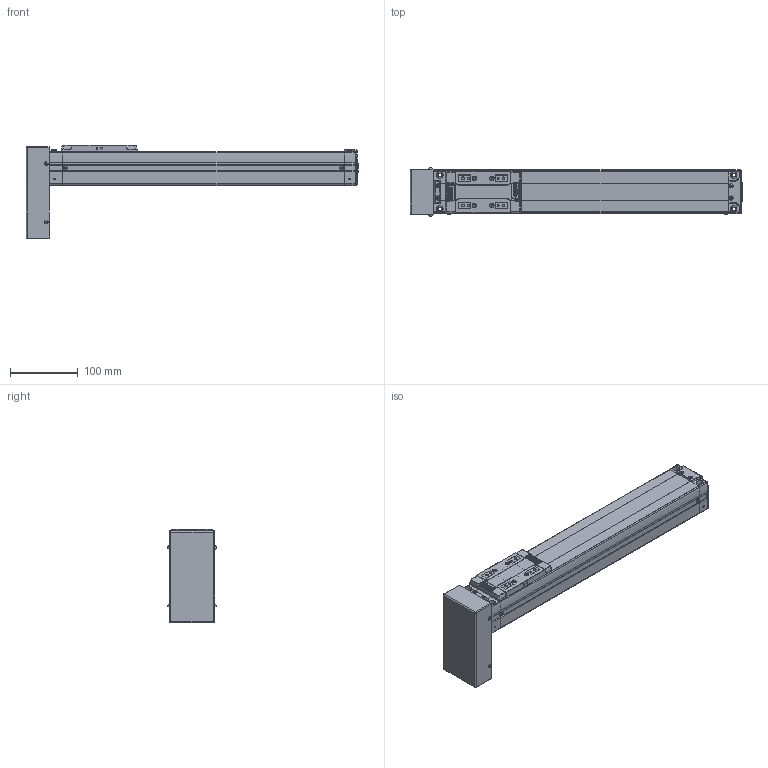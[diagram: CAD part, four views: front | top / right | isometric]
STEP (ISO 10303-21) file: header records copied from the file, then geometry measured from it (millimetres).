
FILE_DESCRIPTION(('STEP AP214'),'1');
FILE_NAME('Z:/Web/3D/SAN65/STP/SAN65ㅁㅁ-300PB.stp','2012-06-14T05:07:32',(' '),(' '),'Spatial InterOp 3D',' ',' ');
FILE_SCHEMA(('automotive_design'));
Length unit declared in the file: metre
Products named in the file (34): SAN65__-300; BODY-SAN65; REAR-SAN65; RRCV-SAN65; 스크루 : Round - M3.0 x 6.0; FRONT-SAN65; SHAFT-SAN65; RN8 x 0.75; SSFX-SAN65; SLIDE-SAN65; SLCV-SAN65; 스크루 : Countersunk - M3.0 x 6.0; ____198; PB; BTCV-SAN65; M3.0 x 6.0
Assembly tree (33 placements, depth 4):
  ____198
    SAN65__-300
      BODY-SAN65
      REAR-SAN65
        REAR-SAN65
        RRCV-SAN65
        스크루 : Round - M3.0 x 6.0
        스크루 : Round - M3.0 x 6.0
        스크루 : Round - M3.0 x 6.0
        스크루 : Round - M3.0 x 6.0
        스크루 : Round - M3.0 x 6.0
        스크루 : Round - M3.0 x 6.0
      FRONT-SAN65
        FRONT-SAN65
        SHAFT-SAN65
        RN8 x 0.75
        SSFX-SAN65
        스크루 : Round - M3.0 x 6.0
        스크루 : Round - M3.0 x 6.0
        스크루 : Round - M3.0 x 6.0
        스크루 : Round - M3.0 x 6.0
      SLIDE-SAN65
        SLIDE-SAN65
        SLCV-SAN65
        스크루 : Countersunk - M3.0 x 6.0
        스크루 : Countersunk - M3.0 x 6.0
        스크루 : Countersunk - M3.0 x 6.0
        스크루 : Countersunk - M3.0 x 6.0
    PB
      BTCV-SAN65
      M3.0 x 6.0
      M3.0 x 6.0
      M3.0 x 6.0
      M3.0 x 6.0
Bounding box: 490.15 x 71.13 x 138.5 mm (x, y, z)
Volume: 1763609.4 mm3; surface area: 219260.5 mm2
Topology: 28 solids, 28 shells, 1462 faces, 3743 edges, 2434 vertices
Faces by surface type: plane 892, cylinder 417, cone 79, bspline 30, sphere 26, torus 15, extrusion 3
Full cylindrical faces by diameter (mm): 0.571 x2, 0.706 x1, 1.727 x2, 2.132 x1, 2.2 x4, 2.5 x9, 2.528 x4, 3 x6, 3.121 x2, 3.3 x4, 3.4 x8, 3.5 x6, 4.2 x26, 4.849 x4, 5 x2, 5.5 x4, 5.987 x2, 6 x6, 6.35 x1, 7 x1, 8 x4, 9.5 x4, 13 x1, 15 x1, 19 x1, 26 x1, 38.1 x1
Entity records: 59788 total; most frequent: CARTESIAN_POINT 12334, DIRECTION 7339, ORIENTED_EDGE 6920, EDGE_CURVE 3460, AXIS2_PLACEMENT_3D 2501, VERTEX_POINT 2380, VECTOR 2337, LINE 2334
